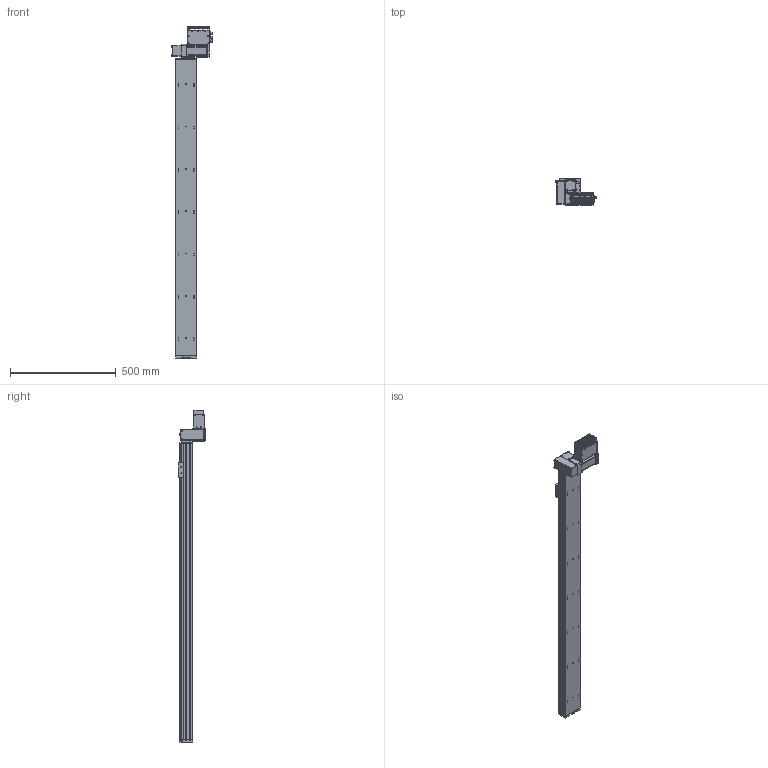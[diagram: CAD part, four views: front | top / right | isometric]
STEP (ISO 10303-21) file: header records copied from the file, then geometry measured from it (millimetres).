
FILE_DESCRIPTION (( 'STEP AP203' ), '1' );
FILE_NAME ('S10 TBN RH S1400.STEP', '2012-06-14T08:24:47', ( 'Conseil Régional Haute-Normandie' ), ( 'Conseil Régional Haute-Normandie' ), 'SwSTEP 2.0', 'SolidWorks 2010', '' );
FILE_SCHEMA (( 'CONFIG_CONTROL_DESIGN' ));
Length unit declared in the file: millimetre
Products named in the file (29): Plaque racord_Default; plaque de bout s10_Default; Vis M5 L16-2_Default_1; vis M5 L5_Default; Moteur 60BLDC90A_3; BU45 Carte d''axe A11_5; Couvercle_3; Radiateur profil_X2_00E9_X0_ 100x25_3; Colonnette ronde_3; axe 1400; S10 TBN RH S1400; embout; palette tbn; renvoi LH_Default; cache t皻e axe_Default; cache t皻e_Default; Cvis M5 L30_Default; Assem1_7; T_X2_00F4_X0_le contre le moteur_5; BU41 Carte Alimentation P05_3; Colonnette_3; T_X2_00F4_X0_le fond_3; Connecteur rond D10 3cts_5; Connecteur rond D12 4cts_5; Sub D 9cts 90_X2_00B_X0__3; T_X2_00F4_X0_le Arri_X2_00E8_X0_re_5; T_X2_00F4_X0_le lat_X2_00E9_X0_rale_5; Vis TF 3 torkx_1_1; Vis TF 3 torkx
Assembly tree (65 placements, depth 3):
  S10 TBN RH S1400
    Vis TF 3 torkx  x7
    Plaque racord_Default
    axe 1400
    vis M5 L5_Default  x4
    renvoi LH_Default
    plaque de bout s10_Default
    Cvis M5 L30_Default  x2
    palette tbn
    cache t皻e_Default  x2
    Vis M5 L16-2_Default_1  x4
    Assem1_7
      Colonnette_3  x2
      Vis TF 3 torkx_1_1  x21
      T_X2_00F4_X0_le fond_3
      BU41 Carte Alimentation P05_3
      Connecteur rond D10 3cts_5  x2
      T_X2_00F4_X0_le Arri_X2_00E8_X0_re_5
      T_X2_00F4_X0_le contre le moteur_5
      Connecteur rond D12 4cts_5
      T_X2_00F4_X0_le lat_X2_00E9_X0_rale_5  x2
      Colonnette ronde_3
      Sub D 9cts 90_X2_00B_X0__3
      Radiateur profil_X2_00E9_X0_ 100x25_3
      BU45 Carte d''axe A11_5
      Moteur 60BLDC90A_3
      Couvercle_3
    embout
    cache t皻e axe_Default
Bounding box: 189.8 x 124.75 x 1566.5 mm (x, y, z)
Volume: 8092834.2 mm3; surface area: 979303 mm2
Topology: 64 solids, 64 shells, 2399 faces, 5996 edges, 3886 vertices
Faces by surface type: plane 1143, cylinder 1041, cone 180, bspline 32, torus 3
Entity records: 47851 total; most frequent: CARTESIAN_POINT 8598, DIRECTION 7715, ORIENTED_EDGE 7012, EDGE_CURVE 3506, AXIS2_PLACEMENT_3D 2864, VERTEX_POINT 2292, LINE 1987, VECTOR 1987
